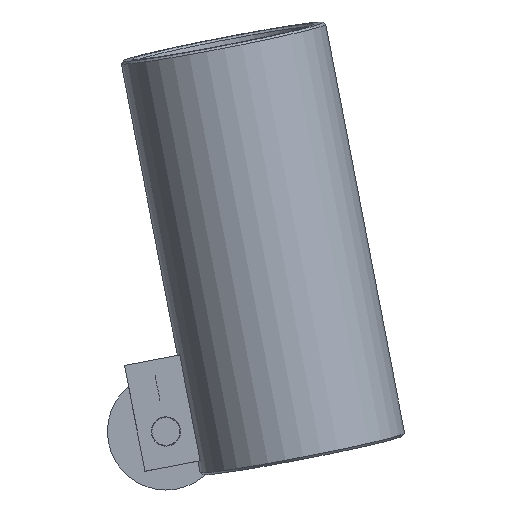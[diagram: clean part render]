
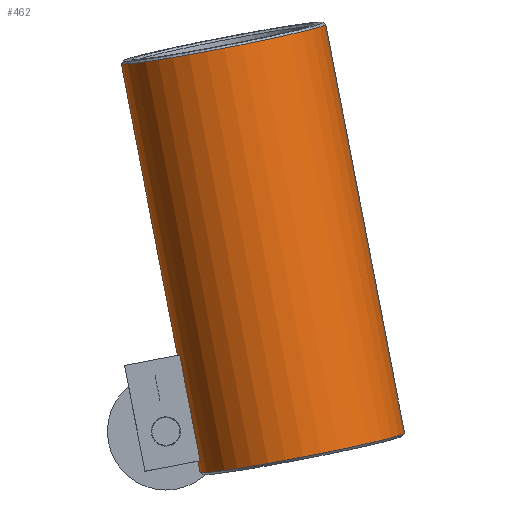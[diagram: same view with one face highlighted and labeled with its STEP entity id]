
A CAD part, front view. The second image highlights one B-rep face of the part: STEP entity #462.
In plain terms, the highlighted cylindrical face has radius 22.25 mm (diameter 44.5 mm), a full revolution.
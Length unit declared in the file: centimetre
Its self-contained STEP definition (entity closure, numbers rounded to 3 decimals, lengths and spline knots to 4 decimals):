
#41=FACE_BOUND('',#156,.T.);
#42=FACE_BOUND('',#157,.T.);
#67=CIRCLE('',#516,2.225);
#68=CIRCLE('',#517,2.225);
#69=CIRCLE('',#518,2.225);
#92=CYLINDRICAL_SURFACE('',#515,2.225);
#111=FACE_OUTER_BOUND('',#155,.T.);
#155=EDGE_LOOP('',(#380));
#156=EDGE_LOOP('',(#381,#382,#383,#384,#385,#386));
#157=EDGE_LOOP('',(#387));
#206=LINE('',#727,#226);
#214=LINE('',#794,#234);
#217=LINE('',#804,#237);
#226=VECTOR('',#574,2.3019);
#234=VECTOR('',#608,2.3019);
#237=VECTOR('',#621,0.0185);
#239=ELLIPSE('',#497,2.2268,2.225);
#240=ELLIPSE('',#514,2.2268,2.225);
#241=VERTEX_POINT('',#709);
#242=VERTEX_POINT('',#710);
#244=VERTEX_POINT('',#714);
#249=VERTEX_POINT('',#726);
#261=VERTEX_POINT('',#793);
#262=VERTEX_POINT('',#801);
#263=VERTEX_POINT('',#803);
#264=VERTEX_POINT('',#806);
#283=EDGE_CURVE('',#241,#242,#239,.T.);
#291=EDGE_CURVE('',#249,#244,#206,.T.);
#306=EDGE_CURVE('',#242,#261,#214,.T.);
#309=EDGE_CURVE('',#261,#249,#240,.T.);
#310=EDGE_CURVE('',#262,#262,#67,.T.);
#311=EDGE_CURVE('',#244,#263,#217,.T.);
#312=EDGE_CURVE('',#263,#241,#68,.T.);
#313=EDGE_CURVE('',#264,#264,#69,.T.);
#380=ORIENTED_EDGE('',*,*,#310,.F.);
#381=ORIENTED_EDGE('',*,*,#283,.T.);
#382=ORIENTED_EDGE('',*,*,#306,.T.);
#383=ORIENTED_EDGE('',*,*,#309,.T.);
#384=ORIENTED_EDGE('',*,*,#291,.T.);
#385=ORIENTED_EDGE('',*,*,#311,.T.);
#386=ORIENTED_EDGE('',*,*,#312,.T.);
#387=ORIENTED_EDGE('',*,*,#313,.F.);
#462=ADVANCED_FACE('',(#111,#41,#42),#92,.T.);
#497=AXIS2_PLACEMENT_3D('',#711,#563,#564);
#514=AXIS2_PLACEMENT_3D('',#799,#615,#616);
#515=AXIS2_PLACEMENT_3D('',#800,#617,#618);
#516=AXIS2_PLACEMENT_3D('',#802,#619,#620);
#517=AXIS2_PLACEMENT_3D('',#805,#622,#623);
#518=AXIS2_PLACEMENT_3D('',#807,#624,#625);
#563=DIRECTION('center_axis',(-0.189,0.,
0.982));
#564=DIRECTION('ref_axis',(0.,-1.,0.));
#574=DIRECTION('',(-0.189,-0.041,0.981));
#608=DIRECTION('',(0.189,0.041,-0.981));
#615=DIRECTION('center_axis',(0.189,0.,-0.982));
#616=DIRECTION('ref_axis',(0.,-1.,0.));
#617=DIRECTION('center_axis',(0.189,0.041,-0.981));
#618=DIRECTION('ref_axis',(0.982,0.,0.189));
#619=DIRECTION('center_axis',(0.189,0.041,-0.981));
#620=DIRECTION('ref_axis',(-0.982,0.,-0.189));
#621=DIRECTION('',(-0.189,-0.041,0.981));
#622=DIRECTION('center_axis',(-0.189,-0.041,0.981));
#623=DIRECTION('ref_axis',(0.982,0.,0.189));
#624=DIRECTION('center_axis',(-0.189,-0.041,0.981));
#625=DIRECTION('ref_axis',(-0.982,0.,-0.189));
#709=CARTESIAN_POINT('',(-0.2282,67.258,1.6517));
#710=CARTESIAN_POINT('',(-0.1791,66.7754,1.6611));
#711=CARTESIAN_POINT('Origin',(1.9566,67.2448,2.0729));
#714=CARTESIAN_POINT('',(-0.1791,67.7143,1.6611));
#726=CARTESIAN_POINT('',(0.2563,67.8077,-0.5973));
#727=CARTESIAN_POINT('',(-0.542,67.6364,3.5434));
#793=CARTESIAN_POINT('',(0.2563,66.8688,-0.5973));
#794=CARTESIAN_POINT('',(-0.5348,66.6991,3.506));
#799=CARTESIAN_POINT('Origin',(2.392,67.3383,-0.1855));
#800=CARTESIAN_POINT('Origin',(1.5973,67.1677,3.9365));
#801=CARTESIAN_POINT('',(4.6238,67.3483,-0.0082));
#802=CARTESIAN_POINT('Origin',(2.439,67.3483,-0.4295));
#803=CARTESIAN_POINT('',(-0.1826,67.7135,1.6793));
#804=CARTESIAN_POINT('',(-0.542,67.6364,3.5434));
#805=CARTESIAN_POINT('Origin',(1.9567,67.2449,2.0724));
#806=CARTESIAN_POINT('',(2.9403,66.9871,8.7236));
#807=CARTESIAN_POINT('Origin',(0.7555,66.9871,8.3024));
